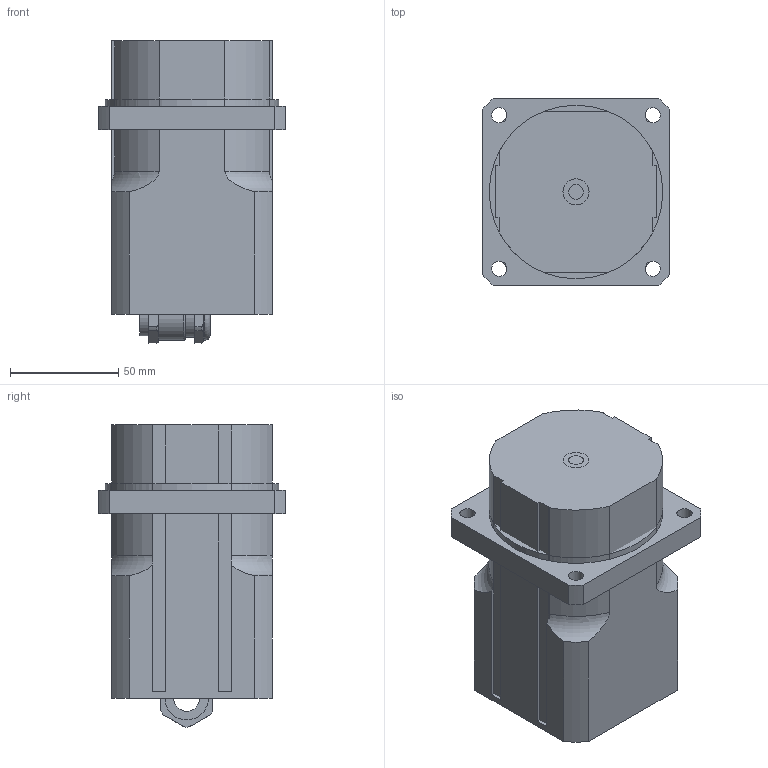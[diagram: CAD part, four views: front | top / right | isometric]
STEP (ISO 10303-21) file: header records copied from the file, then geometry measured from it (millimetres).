
FILE_DESCRIPTION(/* description */ ('Alibre Inc.'),/* implementation_level */ '2;1');
FILE_NAME(/* name */ 'export0',/* time_stamp */ '2011-03-17T08:25:39+01:00',/* author */ (''),/* organization */ (''),/* preprocessor_version */ 'ST-DEVELOPER v12',/* originating_system */ 'Alibre',/* authorisation */ '');
FILE_SCHEMA (('ALIBRE_SCHEMA','CONFIG_CONTROL_DESIGN'));
Length unit declared in the file: millimetre
Products named in the file (4): ID_1
Bounding box: 86 x 86 x 139.3 mm (x, y, z)
Volume: 728153.8 mm3; surface area: 71569.4 mm2
Topology: 3 solids, 3 shells, 128 faces, 321 edges, 208 vertices
Faces by surface type: plane 58, cylinder 32, bspline 19, torus 18, cone 1
Full cylindrical faces by diameter (mm): 12 x1, 14 x1, 20 x1, 21.4 x1, 24 x2, 62 x1, 80 x1
Entity records: 13578 total; most frequent: CARTESIAN_POINT 4212, ORIENTED_EDGE 1448, DIRECTION 1354, EDGE_CURVE 724, AXIS2_PLACEMENT_3D 521, VERTEX_POINT 502, VECTOR 467, LINE 440
